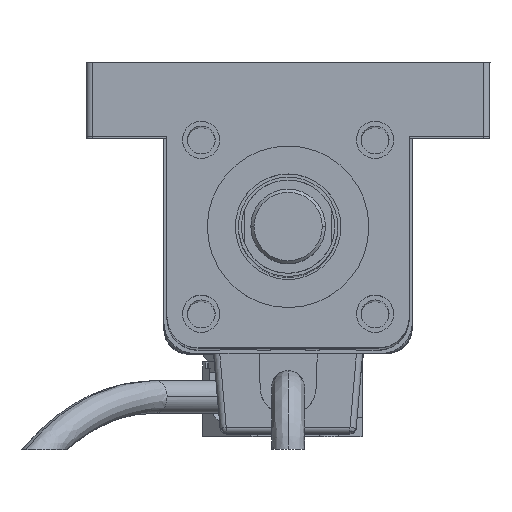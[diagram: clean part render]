
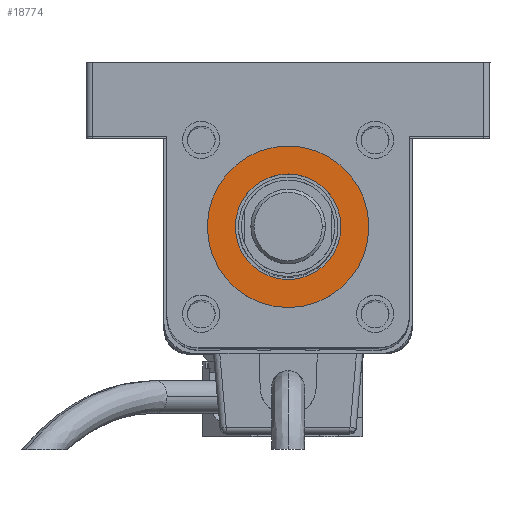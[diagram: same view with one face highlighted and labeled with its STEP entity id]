
A CAD part, top view. The second image highlights one B-rep face of the part: STEP entity #18774.
In plain terms, the highlighted planar face has unit normal (0, 0, 1) as drawn and (0, 0, -1) by its records, which use the part's own axes.
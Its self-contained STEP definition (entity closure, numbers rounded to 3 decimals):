
#1657 = CARTESIAN_POINT ( 'NONE',  ( 19.5, -19.5, -3. ) ) ;
#2857 = AXIS2_PLACEMENT_3D ( 'NONE', #20108, #6634, #10863 ) ;
#3445 = ORIENTED_EDGE ( 'NONE', *, *, #22449, .F. ) ;
#3713 = DIRECTION ( 'NONE',  ( -1., 0., 0. ) ) ;
#5085 = VERTEX_POINT ( 'NONE', #22047 ) ;
#5737 = AXIS2_PLACEMENT_3D ( 'NONE', #12349, #25929, #10075 ) ;
#6634 = DIRECTION ( 'NONE',  ( 0., 0., -1. ) ) ;
#6843 = VERTEX_POINT ( 'NONE', #28789 ) ;
#7154 = ORIENTED_EDGE ( 'NONE', *, *, #14163, .T. ) ;
#7937 = CARTESIAN_POINT ( 'NONE',  ( 19.5, -19.5, -3. ) ) ;
#8331 = EDGE_CURVE ( 'NONE', #5085, #24355, #15679, .T. ) ;
#8438 = DIRECTION ( 'NONE',  ( -1., 0., 0. ) ) ;
#10075 = DIRECTION ( 'NONE',  ( -1., 0., 0. ) ) ;
#10439 = DIRECTION ( 'NONE',  ( -1., 0., 0. ) ) ;
#10743 = VERTEX_POINT ( 'NONE', #23360 ) ;
#10863 = DIRECTION ( 'NONE',  ( -1., 0., 0. ) ) ;
#11450 = EDGE_CURVE ( 'NONE', #6843, #10743, #23574, .T. ) ;
#12038 = FACE_OUTER_BOUND ( 'NONE', #24724, .T. ) ;
#12349 = CARTESIAN_POINT ( 'NONE',  ( 19.5, -19.5, -3. ) ) ;
#12709 = PLANE ( 'NONE',  #13524 ) ;
#13524 = AXIS2_PLACEMENT_3D ( 'NONE', #28173, #28367, #10439 ) ;
#14017 = CIRCLE ( 'NONE', #28082, 8.5 ) ;
#14163 = EDGE_CURVE ( 'NONE', #10743, #6843, #14680, .T. ) ;
#14680 = CIRCLE ( 'NONE', #2857, 13. ) ;
#15277 = EDGE_LOOP ( 'NONE', ( #3445, #27328 ) ) ;
#15679 = CIRCLE ( 'NONE', #5737, 8.5 ) ;
#16559 = ORIENTED_EDGE ( 'NONE', *, *, #11450, .T. ) ;
#18774 = ADVANCED_FACE ( 'NONE', ( #25446, #12038 ), #12709, .T. ) ;
#19864 = DIRECTION ( 'NONE',  ( 0., 0., -1. ) ) ;
#20108 = CARTESIAN_POINT ( 'NONE',  ( 19.5, -19.5, -3. ) ) ;
#20866 = AXIS2_PLACEMENT_3D ( 'NONE', #1657, #19864, #8438 ) ;
#22047 = CARTESIAN_POINT ( 'NONE',  ( 28., -19.5, -3. ) ) ;
#22449 = EDGE_CURVE ( 'NONE', #24355, #5085, #14017, .T. ) ;
#23360 = CARTESIAN_POINT ( 'NONE',  ( 6.5, -19.5, -3. ) ) ;
#23574 = CIRCLE ( 'NONE', #20866, 13. ) ;
#24344 = CARTESIAN_POINT ( 'NONE',  ( 11., -19.5, -3. ) ) ;
#24355 = VERTEX_POINT ( 'NONE', #24344 ) ;
#24724 = EDGE_LOOP ( 'NONE', ( #16559, #7154 ) ) ;
#25446 = FACE_BOUND ( 'NONE', #15277, .T. ) ;
#25929 = DIRECTION ( 'NONE',  ( 0., 0., -1. ) ) ;
#27328 = ORIENTED_EDGE ( 'NONE', *, *, #8331, .F. ) ;
#28082 = AXIS2_PLACEMENT_3D ( 'NONE', #7937, #28237, #3713 ) ;
#28173 = CARTESIAN_POINT ( 'NONE',  ( 19.5, -19.5, -3. ) ) ;
#28237 = DIRECTION ( 'NONE',  ( 0., 0., -1. ) ) ;
#28367 = DIRECTION ( 'NONE',  ( 0., 0., -1. ) ) ;
#28789 = CARTESIAN_POINT ( 'NONE',  ( 32.5, -19.5, -3. ) ) ;
